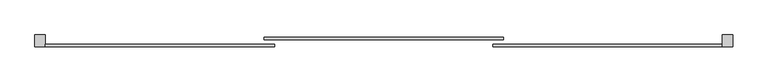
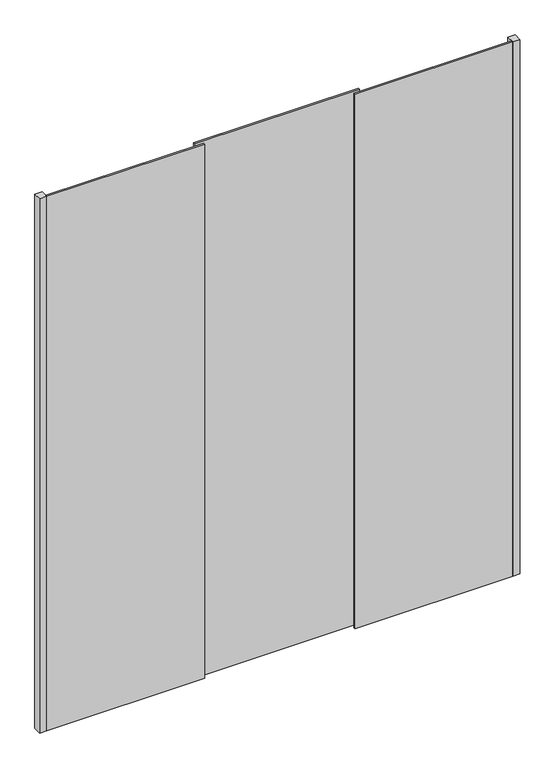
"""IFC4 building model written with IfcOpenShell, lengths in millimetres: furniture geometry, Puerta Closet corre 3 hojas : Puerta corrdiza 3 hojas PCL-08."""

from ifc_helpers import new_model, si_unit, origin, origin_with_axes, place, context, project, spatial, polyline, outline, extrude, source, transform, mapped, element, save


def furniture_4c252591(model_context):
    return source(origin(), model_context, "Body", "SweptSolid", [
        extrude(outline(polyline([(710.0, 86.6666667), (680.0, 86.6666667), (680.0, 120.0), (710.0, 120.0), (710.0, 86.6666667)])), origin_with_axes(), (0.0, 0.0, 1.0), 2350.0),
        extrude(outline(polyline([(680.0, 86.6666667), (23.3333333, 86.6666667), (23.3333333, 93.3333333), (680.0, 93.3333333), (680.0, 86.6666667)])), origin_with_axes(), (0.0, 0.0, 1.0), 2350.0),
        extrude(outline(polyline([(53.3333333, 106.6666667), (-633.3333333, 106.6666667), (-633.3333333, 113.3333333), (53.3333333, 113.3333333), (53.3333333, 106.6666667)])), origin_with_axes(), (0.0, 0.0, 1.0), 2350.0),
        extrude(outline(polyline([(-603.3333333, 86.6666667), (-1260.0, 86.6666667), (-1260.0, 93.3333333), (-603.3333333, 93.3333333), (-603.3333333, 86.6666667)])), origin_with_axes(), (0.0, 0.0, 1.0), 2350.0),
        extrude(outline(polyline([(-1290.0, 86.6666667), (-1290.0, 120.0), (-1260.0, 120.0), (-1260.0, 86.6666667), (-1290.0, 86.6666667)])), origin_with_axes(), (0.0, 0.0, 1.0), 2350.0),
    ])


if __name__ == "__main__":
    model = new_model("IFC4")
    model_context = context("Model", 3, world=origin())
    ifc_project = project(units=[si_unit("LENGTHUNIT", "METRE", prefix="MILLI")], contexts=[model_context])
    site = spatial("IfcSite", under=ifc_project)
    building = spatial("IfcBuilding", under=site)
    placement = place(None, origin())
    furniture_shape = furniture_4c252591(model_context)
    element("IfcFurniture", 1, ObjectType="Puerta Closet corre 3 hojas : Puerta corrdiza 3 hojas PCL-08", at=placement, inside=building, context=model_context, shape_type="MappedRepresentation", body=[
        mapped(furniture_shape, transform((0.0, 0.0, 0.0), x_axis=(1.0, 0.0, 0.0), y_axis=(0.0, 1.0, 0.0), z_axis=(0.0, 0.0, 1.0))),
    ])
    save(model, "model.ifc")
